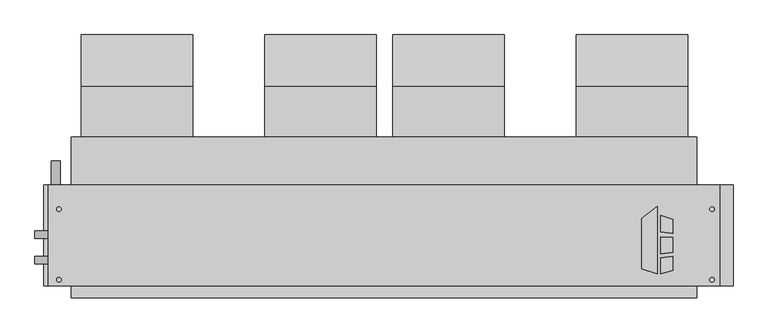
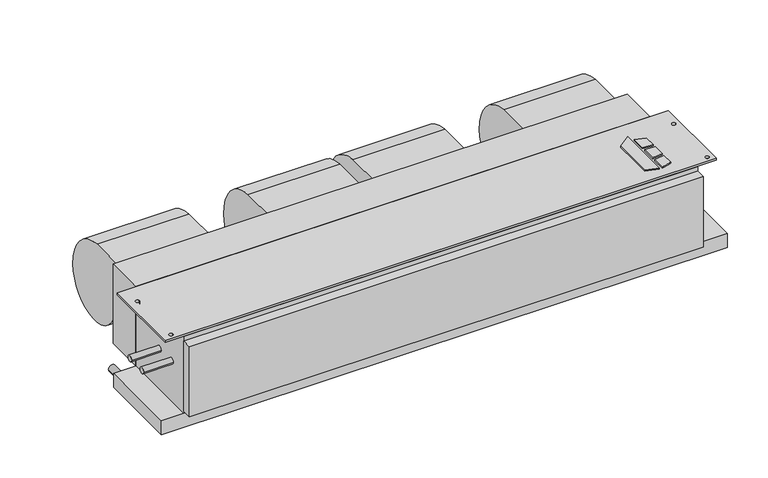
"""IFC4 building model written with IfcOpenShell, lengths in millimetres: proxy geometry, Concealed_Horizontal_Fan_Coil_Unit_-_CHY_-_IEC_-_2-Pipe_Cool-EHeat_LH_2022 : Size 10 - 277v/60Hz/1Ph - 4 Row 8.0kW."""

from ifc_helpers import new_model, si_unit, point, frame, frame_2d, origin, origin_with_axes, place, context, project, spatial, polyline, circle_curve, trimmed, segment, composite_curve, outline, extrude, source, transform, mapped, element, save


def mechanical_equipment_52533416(model_context):
    return source(origin(), model_context, "Body", "SweptSolid", [
        extrude(outline(polyline([(696.6019761, -202.5703476), (729.1602728, -177.1330184), (729.1602728, -319.0875), (696.6019761, -308.8679201), (696.6019761, -202.5703476)])), origin_with_axes(), (0.0, 0.0, 1.0), 3.175),
        extrude(outline(polyline([(735.9186058, -230.442352), (735.9186058, -195.9624379), (762.0, -204.1490115), (762.0, -233.6447446), (735.9186058, -230.442352)])), origin_with_axes(), (0.0, 0.0, 1.0), 3.175),
        extrude(outline(polyline([(762.0, -312.0990115), (735.9186058, -319.0875), (735.9186058, -285.8661996), (762.0, -282.3243564), (762.0, -312.0990115)])), origin_with_axes(), (0.0, 0.0, 1.0), 3.175),
        extrude(outline(polyline([(762.0, -242.7263277), (762.0, -273.976483), (735.9186058, -276.717748), (735.9186058, -240.8600378), (762.0, -242.7263277)])), origin_with_axes(), (0.0, 0.0, 1.0), 3.175),
        extrude(outline(composite_curve([segment(trimmed(circle_curve(frame_2d((68.401169, -136.0299844)), 117.3559541), [point((77.7875, -19.05))], [point((185.7375, -138.176))], False, "CARTESIAN"), True, "CONTINUOUS"), segment(trimmed(circle_curve(frame_2d((90.0022663, -136.4250563)), 95.7512443), [point((185.7375, -138.176))], [point((77.7875, -231.394))], False, "CARTESIAN"), True, "CONTINUOUS"), segment(trimmed(circle_curve(frame_2d((89.9711869, -136.6666968)), 95.5076133), [point((77.7875, -231.394))], [point((-5.5245, -138.176))], False, "CARTESIAN"), True, "CONTINUOUS"), segment(trimmed(circle_curve(frame_2d((-24.6059828, -138.4775816)), 19.0838659), [point((-5.5245, -138.176))], [point((-17.7963373, -120.65))], True, "CARTESIAN"), True, "CONTINUOUS"), segment(polyline([(-17.7963373, -120.65), (-30.1625, -120.65), (-30.1625, -19.05), (77.7875, -19.05)]), True, "CONTINUOUS")], self_intersect=False)), frame((558.038, 0.0, 0.0), z_axis=(1.0, 0.0, 0.0), x_axis=(0.0, 1.0, 0.0)), (0.0, 0.0, 1.0), 235.712),
        extrude(outline(composite_curve([segment(trimmed(circle_curve(frame_2d((68.401169, -136.0299844)), 117.3559541), [point((77.7875, -19.05))], [point((185.7375, -138.176))], False, "CARTESIAN"), True, "CONTINUOUS"), segment(trimmed(circle_curve(frame_2d((90.0022663, -136.4250563)), 95.7512443), [point((185.7375, -138.176))], [point((77.7875, -231.394))], False, "CARTESIAN"), True, "CONTINUOUS"), segment(trimmed(circle_curve(frame_2d((89.9711869, -136.6666968)), 95.5076133), [point((77.7875, -231.394))], [point((-5.5245, -138.176))], False, "CARTESIAN"), True, "CONTINUOUS"), segment(trimmed(circle_curve(frame_2d((-24.6059828, -138.4775816)), 19.0838659), [point((-5.5245, -138.176))], [point((-17.7963373, -120.65))], True, "CARTESIAN"), True, "CONTINUOUS"), segment(polyline([(-17.7963373, -120.65), (-30.1625, -120.65), (-30.1625, -19.05), (77.7875, -19.05)]), True, "CONTINUOUS")], self_intersect=False)), frame((-486.537, 0.0, 0.0), z_axis=(1.0, 0.0, 0.0), x_axis=(0.0, 1.0, 0.0)), (0.0, 0.0, 1.0), 235.712),
        extrude(outline(composite_curve([segment(trimmed(circle_curve(frame_2d((68.401169, -136.0299844)), 117.3559541), [point((77.7875, -19.05))], [point((185.7375, -138.176))], False, "CARTESIAN"), True, "CONTINUOUS"), segment(trimmed(circle_curve(frame_2d((90.0022663, -136.4250563)), 95.7512443), [point((185.7375, -138.176))], [point((77.7875, -231.394))], False, "CARTESIAN"), True, "CONTINUOUS"), segment(trimmed(circle_curve(frame_2d((89.9711869, -136.6666968)), 95.5076133), [point((77.7875, -231.394))], [point((-5.5245, -138.176))], False, "CARTESIAN"), True, "CONTINUOUS"), segment(trimmed(circle_curve(frame_2d((-24.6059828, -138.4775816)), 19.0838659), [point((-5.5245, -138.176))], [point((-17.7963373, -120.65))], True, "CARTESIAN"), True, "CONTINUOUS"), segment(polyline([(-17.7963373, -120.65), (-30.1625, -120.65), (-30.1625, -19.05), (77.7875, -19.05)]), True, "CONTINUOUS")], self_intersect=False)), frame((-99.187, 0.0, 0.0), z_axis=(1.0, 0.0, 0.0), x_axis=(0.0, 1.0, 0.0)), (0.0, 0.0, 1.0), 235.712),
        extrude(outline(composite_curve([segment(trimmed(circle_curve(frame_2d((68.401169, -136.0299844)), 117.3559541), [point((77.7875, -19.05))], [point((185.7375, -138.176))], False, "CARTESIAN"), True, "CONTINUOUS"), segment(trimmed(circle_curve(frame_2d((90.0022663, -136.4250563)), 95.7512443), [point((185.7375, -138.176))], [point((77.7875, -231.394))], False, "CARTESIAN"), True, "CONTINUOUS"), segment(trimmed(circle_curve(frame_2d((89.9711869, -136.6666968)), 95.5076133), [point((77.7875, -231.394))], [point((-5.5245, -138.176))], False, "CARTESIAN"), True, "CONTINUOUS"), segment(trimmed(circle_curve(frame_2d((-24.6059828, -138.4775816)), 19.0838659), [point((-5.5245, -138.176))], [point((-17.7963373, -120.65))], True, "CARTESIAN"), True, "CONTINUOUS"), segment(polyline([(-17.7963373, -120.65), (-30.1625, -120.65), (-30.1625, -19.05), (77.7875, -19.05)]), True, "CONTINUOUS")], self_intersect=False)), frame((170.688, 0.0, 0.0), z_axis=(1.0, 0.0, 0.0), x_axis=(0.0, 1.0, 0.0)), (0.0, 0.0, 1.0), 235.712),
        extrude(outline(polyline([(860.425, -131.7625), (860.425, -344.4875), (-555.625, -344.4875), (-555.625, -131.7625), (860.425, -131.7625)]), holes=[composite_curve([segment(trimmed(circle_curve(frame_2d((-533.4, -182.5625)), 4.7625), [point((-538.1625, -182.5625))], [point((-528.6375, -182.5625))], True, "CARTESIAN"), True, "CONTINUOUS"), segment(trimmed(circle_curve(frame_2d((-533.4, -182.5625)), 4.7625), [point((-528.6375, -182.5625))], [point((-538.1625, -182.5625))], True, "CARTESIAN"), True, "CONTINUOUS")], self_intersect=False), composite_curve([segment(trimmed(circle_curve(frame_2d((-533.4, -331.7875)), 4.7625), [point((-538.1625, -331.7875))], [point((-528.6375, -331.7875))], True, "CARTESIAN"), True, "CONTINUOUS"), segment(trimmed(circle_curve(frame_2d((-533.4, -331.7875)), 4.7625), [point((-528.6375, -331.7875))], [point((-538.1625, -331.7875))], True, "CARTESIAN"), True, "CONTINUOUS")], self_intersect=False), composite_curve([segment(trimmed(circle_curve(frame_2d((844.55, -182.5625)), 4.7625), [point((839.7875, -182.5625))], [point((849.3125, -182.5625))], True, "CARTESIAN"), True, "CONTINUOUS"), segment(trimmed(circle_curve(frame_2d((844.55, -182.5625)), 4.7625), [point((849.3125, -182.5625))], [point((839.7875, -182.5625))], True, "CARTESIAN"), True, "CONTINUOUS")], self_intersect=False), composite_curve([segment(trimmed(circle_curve(frame_2d((844.55, -331.7875)), 4.7625), [point((839.7875, -331.7875))], [point((849.3125, -331.7875))], True, "CARTESIAN"), True, "CONTINUOUS"), segment(trimmed(circle_curve(frame_2d((844.55, -331.7875)), 4.7625), [point((849.3125, -331.7875))], [point((839.7875, -331.7875))], True, "CARTESIAN"), True, "CONTINUOUS")], self_intersect=False)]), frame((0.0, 0.0, -6.35), z_axis=(0.0, 0.0, 1.0), x_axis=(1.0, 0.0, 0.0)), (0.0, 0.0, 1.0), 6.35),
        extrude(outline(polyline([(-508.0, -30.1625), (812.8, -30.1625), (812.8, -131.7625), (-508.0, -131.7625), (-508.0, -30.1625)])), frame((0.0, 0.0, -215.9), z_axis=(0.0, 0.0, 1.0), x_axis=(1.0, 0.0, 0.0)), (0.0, 0.0, 1.0), 215.9),
        extrude(outline(composite_curve([segment(trimmed(circle_curve(frame_2d((-241.3, -539.75)), 9.525), [point((-241.3, -549.275))], [point((-241.3, -530.225))], False, "CARTESIAN"), True, "CONTINUOUS"), segment(trimmed(circle_curve(frame_2d((-241.3, -539.75)), 9.525), [point((-241.3, -530.225))], [point((-241.3, -549.275))], False, "CARTESIAN"), True, "CONTINUOUS")], self_intersect=False)), frame((0.0, -131.7625, 0.0), z_axis=(0.0, 1.0, 0.0), x_axis=(0.0, 0.0, 1.0)), (0.0, 0.0, 1.0), 50.8),
        extrude(outline(polyline([(812.8, -369.8875), (-508.0, -369.8875), (-508.0, -344.4875), (812.8, -344.4875), (812.8, -369.8875)])), frame((0.0, 0.0, -209.55), z_axis=(0.0, 0.0, 1.0), x_axis=(1.0, 0.0, 0.0)), (0.0, 0.0, 1.0), 190.5),
        extrude(outline(polyline([(889.0, -131.7625), (889.0, -344.4875), (-565.15, -344.4875), (-565.15, -131.7625), (889.0, -131.7625)])), frame((0.0, 0.0, -254.0), z_axis=(0.0, 0.0, 1.0), x_axis=(1.0, 0.0, 0.0)), (0.0, 0.0, 1.0), 38.1),
        extrude(outline(composite_curve([segment(trimmed(circle_curve(frame_2d((-290.5125, -104.775)), 7.9375), [point((-282.575, -104.775))], [point((-298.45, -104.775))], False, "CARTESIAN"), True, "CONTINUOUS"), segment(trimmed(circle_curve(frame_2d((-290.5125, -104.775)), 7.9375), [point((-298.45, -104.775))], [point((-282.575, -104.775))], False, "CARTESIAN"), True, "CONTINUOUS")], self_intersect=False)), frame((-584.2, 0.0, 0.0), z_axis=(1.0, 0.0, 0.0), x_axis=(0.0, 1.0, 0.0)), (0.0, 0.0, 1.0), 76.2),
        extrude(outline(composite_curve([segment(trimmed(circle_curve(frame_2d((-236.5375, -104.775)), 7.9375), [point((-228.6, -104.775))], [point((-244.475, -104.775))], False, "CARTESIAN"), True, "CONTINUOUS"), segment(trimmed(circle_curve(frame_2d((-236.5375, -104.775)), 7.9375), [point((-244.475, -104.775))], [point((-228.6, -104.775))], False, "CARTESIAN"), True, "CONTINUOUS")], self_intersect=False)), frame((-584.2, 0.0, 0.0), z_axis=(1.0, 0.0, 0.0), x_axis=(0.0, 1.0, 0.0)), (0.0, 0.0, 1.0), 76.2),
        extrude(outline(polyline([(812.8, -344.4875), (-508.0, -344.4875), (-508.0, -131.7625), (812.8, -131.7625), (812.8, -344.4875)])), frame((0.0, 0.0, -215.9), z_axis=(0.0, 0.0, 1.0), x_axis=(1.0, 0.0, 0.0)), (0.0, 0.0, 1.0), 209.55),
    ])


if __name__ == "__main__":
    model = new_model("IFC4")
    model_context = context("Model", 3, world=origin())
    ifc_project = project(units=[si_unit("LENGTHUNIT", "METRE", prefix="MILLI")], contexts=[model_context])
    site = spatial("IfcSite", under=ifc_project)
    building = spatial("IfcBuilding", under=site)
    placement = place(None, origin())
    mechanical_equipment_shape = mechanical_equipment_52533416(model_context)
    element("IfcBuildingElementProxy", 1, Name="Concealed_Horizontal_Fan_Coil_Unit_-_CHY_-_IEC_-_2-Pipe_Cool-EHeat_LH_2022 : Size 10 - 277v/60Hz/1Ph - 4 Row 8.0kW", ObjectType="Concealed_Horizontal_Fan_Coil_Unit_-_CHY_-_IEC_-_2-Pipe_Cool-EHeat_LH_2022 : Size 10 - 277v/60Hz/1Ph - 4 Row 8.0kW", at=placement, inside=building, context=model_context, shape_type="MappedRepresentation", body=[
        mapped(mechanical_equipment_shape, transform((0.0, 0.0, 0.0), x_axis=(1.0, 0.0, 0.0), y_axis=(0.0, 1.0, 0.0), z_axis=(0.0, 0.0, 1.0))),
    ])
    save(model, "model.ifc")
